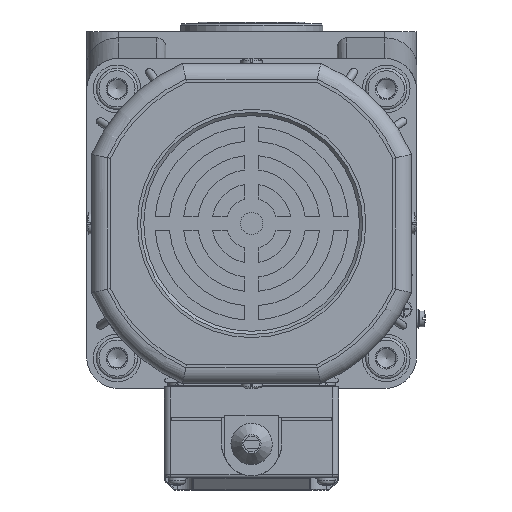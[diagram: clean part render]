
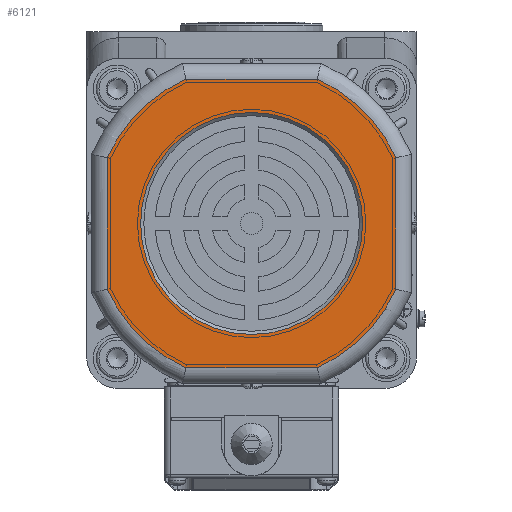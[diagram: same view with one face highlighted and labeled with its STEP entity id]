
A CAD part, left-side view. The second image highlights one B-rep face of the part: STEP entity #6121.
In plain terms, the highlighted planar face has unit normal (-1, 0, 0).
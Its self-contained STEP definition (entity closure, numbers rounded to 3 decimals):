
#1739=FACE_BOUND('',#11781,.T.);
#1740=FACE_BOUND('',#11782,.T.);
#3859=CIRCLE('',#42230,35.);
#3863=CIRCLE('',#42236,50.);
#3866=CIRCLE('',#42242,50.);
#3867=CIRCLE('',#42244,50.);
#3869=CIRCLE('',#42249,50.);
#6121=ADVANCED_FACE('',(#1739,#1740),#8549,.F.);
#8549=PLANE('',#42492);
#11781=EDGE_LOOP('',(#15377));
#11782=EDGE_LOOP('',(#15378,#15379,#15380,#15381,#15382,#15383,#15384,#15385));
#15377=ORIENTED_EDGE('',*,*,#30845,.T.);
#15378=ORIENTED_EDGE('',*,*,#30855,.T.);
#15379=ORIENTED_EDGE('',*,*,#30850,.T.);
#15380=ORIENTED_EDGE('',*,*,#30857,.T.);
#15381=ORIENTED_EDGE('',*,*,#30863,.T.);
#15382=ORIENTED_EDGE('',*,*,#30869,.T.);
#15383=ORIENTED_EDGE('',*,*,#30871,.T.);
#15384=ORIENTED_EDGE('',*,*,#30867,.T.);
#15385=ORIENTED_EDGE('',*,*,#30861,.T.);
#26814=VERTEX_POINT('',#58471);
#26819=VERTEX_POINT('',#58493);
#26820=VERTEX_POINT('',#58495);
#26822=VERTEX_POINT('',#58523);
#26825=VERTEX_POINT('',#58541);
#26826=VERTEX_POINT('',#58557);
#26829=VERTEX_POINT('',#58575);
#26830=VERTEX_POINT('',#58591);
#26833=VERTEX_POINT('',#58609);
#30845=EDGE_CURVE('',#26814,#26814,#3859,.T.);
#30850=EDGE_CURVE('',#26820,#26819,#3863,.T.);
#30855=EDGE_CURVE('',#26822,#26820,#36836,.T.);
#30857=EDGE_CURVE('',#26819,#26825,#36837,.T.);
#30861=EDGE_CURVE('',#26826,#26822,#3866,.T.);
#30863=EDGE_CURVE('',#26825,#26829,#3867,.T.);
#30867=EDGE_CURVE('',#26830,#26826,#36840,.T.);
#30869=EDGE_CURVE('',#26829,#26833,#36841,.T.);
#30871=EDGE_CURVE('',#26833,#26830,#3869,.T.);
#36836=LINE('',#58526,#39528);
#36837=LINE('',#58542,#39529);
#36840=LINE('',#58594,#39532);
#36841=LINE('',#58610,#39533);
#39528=VECTOR('',#46780,1.);
#39529=VECTOR('',#46783,1.);
#39532=VECTOR('',#46800,1.);
#39533=VECTOR('',#46803,1.);
#42230=AXIS2_PLACEMENT_3D('',#58470,#46761,#46762);
#42236=AXIS2_PLACEMENT_3D('',#58494,#46773,#46774);
#42242=AXIS2_PLACEMENT_3D('',#58560,#46789,#46790);
#42244=AXIS2_PLACEMENT_3D('',#58576,#46793,#46794);
#42249=AXIS2_PLACEMENT_3D('',#58613,#46807,#46808);
#42492=AXIS2_PLACEMENT_3D('',#59362,#47485,#47486);
#46761=DIRECTION('',(1.,0.,0.));
#46762=DIRECTION('',(0.,-1.,0.));
#46773=DIRECTION('',(-1.,0.,0.));
#46774=DIRECTION('',(0.,0.,1.));
#46780=DIRECTION('',(0.,-1.,0.));
#46783=DIRECTION('',(0.,0.,1.));
#46789=DIRECTION('',(-1.,0.,0.));
#46790=DIRECTION('',(0.,0.,1.));
#46793=DIRECTION('',(-1.,0.,0.));
#46794=DIRECTION('',(0.,0.,1.));
#46800=DIRECTION('',(0.,0.,-1.));
#46803=DIRECTION('',(0.,1.,0.));
#46807=DIRECTION('',(-1.,0.,0.));
#46808=DIRECTION('',(0.,0.,1.));
#47485=DIRECTION('',(1.,0.,0.));
#47486=DIRECTION('',(0.,0.,1.));
#58470=CARTESIAN_POINT('',(-227.8,-120.671,-58.491));
#58471=CARTESIAN_POINT('',(-227.8,-155.671,-58.491));
#58493=CARTESIAN_POINT('',(-227.8,-166.171,-79.221));
#58494=CARTESIAN_POINT('',(-227.8,-120.671,-58.491));
#58495=CARTESIAN_POINT('',(-227.8,-141.402,-103.991));
#58523=CARTESIAN_POINT('',(-227.8,-99.941,-103.991));
#58526=CARTESIAN_POINT('',(-227.8,-142.46,-103.991));
#58541=CARTESIAN_POINT('',(-227.8,-166.171,-37.76));
#58542=CARTESIAN_POINT('',(-227.8,-166.171,-36.702));
#58557=CARTESIAN_POINT('',(-227.8,-75.171,-79.221));
#58560=CARTESIAN_POINT('',(-227.8,-120.671,-58.491));
#58575=CARTESIAN_POINT('',(-227.8,-141.402,-12.991));
#58576=CARTESIAN_POINT('',(-227.8,-120.671,-58.491));
#58591=CARTESIAN_POINT('',(-227.8,-75.171,-37.76));
#58594=CARTESIAN_POINT('',(-227.8,-75.171,-80.28));
#58609=CARTESIAN_POINT('',(-227.8,-99.941,-12.991));
#58610=CARTESIAN_POINT('',(-227.8,-98.882,-12.991));
#58613=CARTESIAN_POINT('',(-227.8,-120.671,-58.491));
#59362=CARTESIAN_POINT('',(-227.8,-120.671,-58.491));
